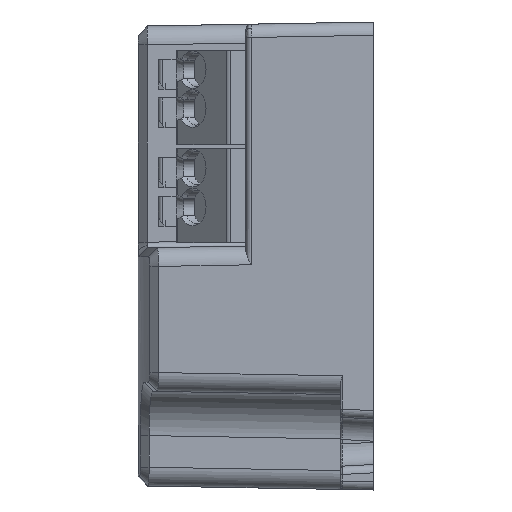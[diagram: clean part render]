
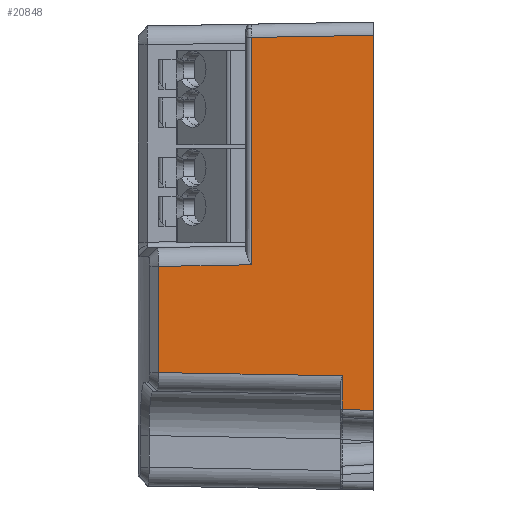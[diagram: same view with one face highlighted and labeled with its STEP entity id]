
A CAD part, left-side view. The second image highlights one B-rep face of the part: STEP entity #20848.
In plain terms, the highlighted planar face has unit normal (-1, 0.018, 0).
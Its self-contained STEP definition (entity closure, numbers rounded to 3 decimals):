
#1859=PLANE('',#22344);
#3404=LINE('',#34355,#5483);
#3405=LINE('',#34357,#5484);
#3406=LINE('',#34359,#5485);
#3407=LINE('',#34361,#5486);
#3408=LINE('',#34363,#5487);
#3409=LINE('',#34365,#5488);
#3410=LINE('',#34367,#5489);
#3411=LINE('',#34368,#5490);
#5483=VECTOR('',#26387,1000.);
#5484=VECTOR('',#26388,1000.);
#5485=VECTOR('',#26389,1000.);
#5486=VECTOR('',#26390,1000.);
#5487=VECTOR('',#26391,1000.);
#5488=VECTOR('',#26392,1000.);
#5489=VECTOR('',#26393,1000.);
#5490=VECTOR('',#26394,1000.);
#7227=FACE_OUTER_BOUND('',#8353,.T.);
#8353=EDGE_LOOP('',(#17693,#17694,#17695,#17696,#17697,#17698,#17699,#17700));
#10604=VERTEX_POINT('',#34353);
#10605=VERTEX_POINT('',#34354);
#10606=VERTEX_POINT('',#34356);
#10607=VERTEX_POINT('',#34358);
#10608=VERTEX_POINT('',#34360);
#10609=VERTEX_POINT('',#34362);
#10610=VERTEX_POINT('',#34364);
#10611=VERTEX_POINT('',#34366);
#13116=EDGE_CURVE('',#10604,#10605,#3404,.T.);
#13117=EDGE_CURVE('',#10605,#10606,#3405,.T.);
#13118=EDGE_CURVE('',#10606,#10607,#3406,.T.);
#13119=EDGE_CURVE('',#10607,#10608,#3407,.T.);
#13120=EDGE_CURVE('',#10608,#10609,#3408,.T.);
#13121=EDGE_CURVE('',#10609,#10610,#3409,.T.);
#13122=EDGE_CURVE('',#10610,#10611,#3410,.T.);
#13123=EDGE_CURVE('',#10611,#10604,#3411,.T.);
#17693=ORIENTED_EDGE('',*,*,#13116,.T.);
#17694=ORIENTED_EDGE('',*,*,#13117,.T.);
#17695=ORIENTED_EDGE('',*,*,#13118,.T.);
#17696=ORIENTED_EDGE('',*,*,#13119,.T.);
#17697=ORIENTED_EDGE('',*,*,#13120,.T.);
#17698=ORIENTED_EDGE('',*,*,#13121,.T.);
#17699=ORIENTED_EDGE('',*,*,#13122,.T.);
#17700=ORIENTED_EDGE('',*,*,#13123,.T.);
#20848=ADVANCED_FACE('',(#7227),#1859,.T.);
#22344=AXIS2_PLACEMENT_3D('',#34352,#26385,#26386);
#26385=DIRECTION('center_axis',(-1.,0.017,0.));
#26386=DIRECTION('ref_axis',(-0.017,-1.,0.));
#26387=DIRECTION('',(-0.017,-1.,-0.017));
#26388=DIRECTION('',(0.,0.,-1.));
#26389=DIRECTION('',(-0.017,-0.998,-0.052));
#26390=DIRECTION('',(0.,0.,1.));
#26391=DIRECTION('',(0.017,1.,-0.017));
#26392=DIRECTION('',(0.,0.,-1.));
#26393=DIRECTION('',(0.017,1.,-0.017));
#26394=DIRECTION('',(0.,0.,-1.));
#34352=CARTESIAN_POINT('Origin',(-57.5,0.,-21.1));
#34353=CARTESIAN_POINT('',(-57.162,19.372,-10.512));
#34354=CARTESIAN_POINT('',(-57.451,2.803,-10.801));
#34355=CARTESIAN_POINT('',(-57.503,-0.179,-10.853));
#34356=CARTESIAN_POINT('',(-57.451,2.803,-13.803));
#34357=CARTESIAN_POINT('',(-57.451,2.803,-21.1));
#34358=CARTESIAN_POINT('',(-57.5,0.,-13.95));
#34359=CARTESIAN_POINT('',(-57.507,-0.374,-13.969));
#34360=CARTESIAN_POINT('',(-57.5,0.,19.9));
#34361=CARTESIAN_POINT('',(-57.5,0.,-21.1));
#34362=CARTESIAN_POINT('',(-57.308,11.009,19.708));
#34363=CARTESIAN_POINT('',(-57.488,0.715,19.888));
#34364=CARTESIAN_POINT('',(-57.308,11.009,-0.792));
#34365=CARTESIAN_POINT('',(-57.308,11.009,-21.1));
#34366=CARTESIAN_POINT('',(-57.162,19.372,-0.938));
#34367=CARTESIAN_POINT('',(-57.15,20.031,-0.949));
#34368=CARTESIAN_POINT('',(-57.162,19.372,-21.1));
